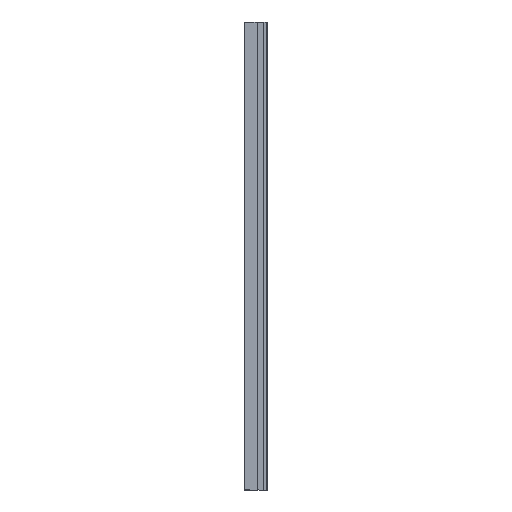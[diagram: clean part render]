
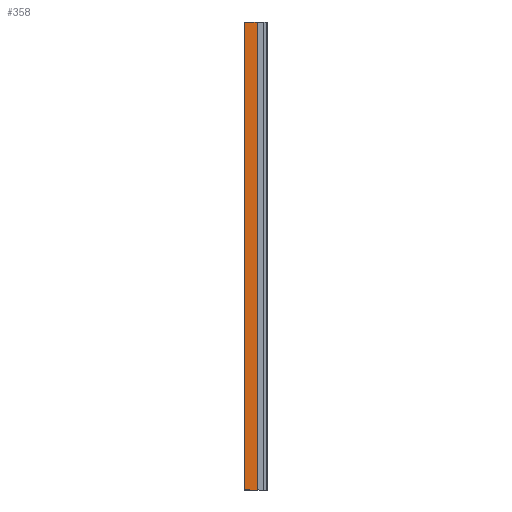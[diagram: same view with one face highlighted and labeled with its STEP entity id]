
A CAD part, front view. The second image highlights one B-rep face of the part: STEP entity #358.
In plain terms, the highlighted planar face has unit normal (0, -1, 0).
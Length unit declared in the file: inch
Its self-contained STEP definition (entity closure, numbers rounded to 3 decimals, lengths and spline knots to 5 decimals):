
#26 = EDGE_CURVE ( 'NONE', #38, #1067, #1026, .T. ) ;
#37 = EDGE_CURVE ( 'NONE', #938, #279, #1271, .T. ) ;
#38 = VERTEX_POINT ( 'NONE', #523 ) ;
#61 = CARTESIAN_POINT ( 'NONE',  ( -1.705, -0.62, 78.74016 ) ) ;
#64 = CARTESIAN_POINT ( 'NONE',  ( -1.705, -0.62, 0. ) ) ;
#175 = ORIENTED_EDGE ( 'NONE', *, *, #780, .F. ) ;
#203 = AXIS2_PLACEMENT_3D ( 'NONE', #233, #839, #441 ) ;
#233 = CARTESIAN_POINT ( 'NONE',  ( -1.705, -0.62, 78.74016 ) ) ;
#258 = ORIENTED_EDGE ( 'NONE', *, *, #37, .F. ) ;
#279 = VERTEX_POINT ( 'NONE', #1178 ) ;
#322 = CARTESIAN_POINT ( 'NONE',  ( -1.705, -0.62, 78.74016 ) ) ;
#336 = EDGE_CURVE ( 'NONE', #938, #38, #1251, .T. ) ;
#358 = ADVANCED_FACE ( 'NONE', ( #935 ), #626, .T. ) ;
#360 = CARTESIAN_POINT ( 'NONE',  ( -3.76, -0.62, 78.74016 ) ) ;
#422 = DIRECTION ( 'NONE',  ( 0., 0., -1. ) ) ;
#441 = DIRECTION ( 'NONE',  ( 1., 0., 0. ) ) ;
#499 = EDGE_LOOP ( 'NONE', ( #175, #258, #1256, #873 ) ) ;
#523 = CARTESIAN_POINT ( 'NONE',  ( -3.76, -0.62, 78.74016 ) ) ;
#527 = CARTESIAN_POINT ( 'NONE',  ( -1.705, -0.62, 78.74016 ) ) ;
#530 = DIRECTION ( 'NONE',  ( 0., 0., -1. ) ) ;
#615 = LINE ( 'NONE', #64, #1155 ) ;
#626 = PLANE ( 'NONE',  #203 ) ;
#760 = VECTOR ( 'NONE', #422, 39.37008 ) ;
#780 = EDGE_CURVE ( 'NONE', #279, #1067, #615, .T. ) ;
#839 = DIRECTION ( 'NONE',  ( 0., -1., 0. ) ) ;
#873 = ORIENTED_EDGE ( 'NONE', *, *, #26, .T. ) ;
#935 = FACE_OUTER_BOUND ( 'NONE', #499, .T. ) ;
#938 = VERTEX_POINT ( 'NONE', #61 ) ;
#1005 = VECTOR ( 'NONE', #1105, 39.37008 ) ;
#1026 = LINE ( 'NONE', #360, #760 ) ;
#1067 = VERTEX_POINT ( 'NONE', #1139 ) ;
#1105 = DIRECTION ( 'NONE',  ( -1., 0., 0. ) ) ;
#1139 = CARTESIAN_POINT ( 'NONE',  ( -3.76, -0.62, 0. ) ) ;
#1155 = VECTOR ( 'NONE', #1176, 39.37008 ) ;
#1176 = DIRECTION ( 'NONE',  ( -1., 0., 0. ) ) ;
#1178 = CARTESIAN_POINT ( 'NONE',  ( -1.705, -0.62, 0. ) ) ;
#1251 = LINE ( 'NONE', #322, #1005 ) ;
#1256 = ORIENTED_EDGE ( 'NONE', *, *, #336, .T. ) ;
#1271 = LINE ( 'NONE', #527, #1306 ) ;
#1306 = VECTOR ( 'NONE', #530, 39.37008 ) ;
